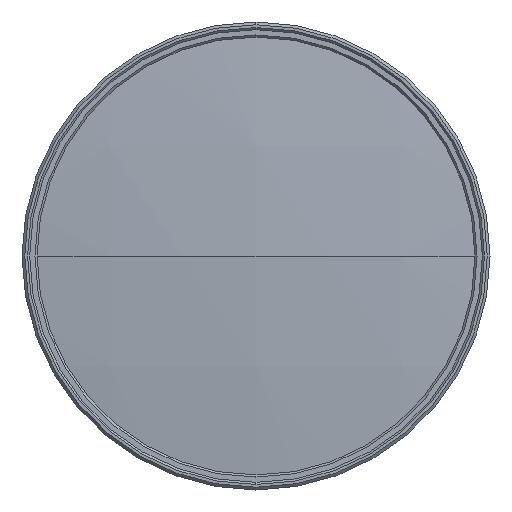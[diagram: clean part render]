
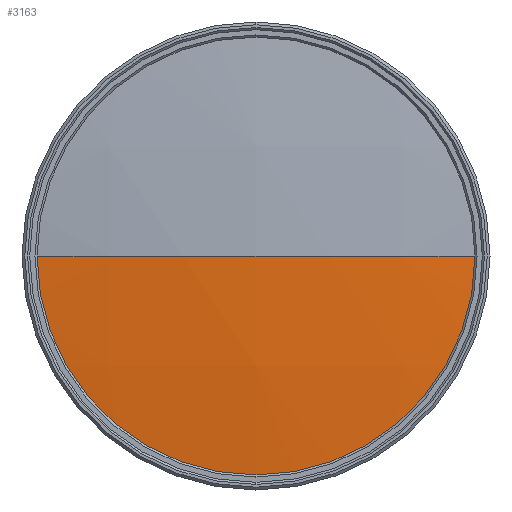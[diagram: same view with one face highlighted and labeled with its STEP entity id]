
A CAD part, left-side view. The second image highlights one B-rep face of the part: STEP entity #3163.
In plain terms, the highlighted spherical face has radius 347.5 mm.
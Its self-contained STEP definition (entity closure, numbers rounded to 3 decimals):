
#76 = ORIENTED_EDGE ( 'NONE', *, *, #3072, .T. ) ;
#130 = CIRCLE ( 'NONE', #3516, 347.5 ) ;
#359 = CARTESIAN_POINT ( 'NONE',  ( 353.729, 0., 0. ) ) ;
#649 = DIRECTION ( 'NONE',  ( 1., 0., 0. ) ) ;
#762 = CARTESIAN_POINT ( 'NONE',  ( 353.729, 0., 0. ) ) ;
#773 = EDGE_LOOP ( 'NONE', ( #76, #1961, #1772 ) ) ;
#922 = VERTEX_POINT ( 'NONE', #1999 ) ;
#1066 = DIRECTION ( 'NONE',  ( 0., 1., 0. ) ) ;
#1074 = AXIS2_PLACEMENT_3D ( 'NONE', #3073, #2483, #1912 ) ;
#1211 = CIRCLE ( 'NONE', #3701, 39.397 ) ;
#1527 = FACE_OUTER_BOUND ( 'NONE', #773, .T. ) ;
#1580 = DIRECTION ( 'NONE',  ( -1., 0., 0. ) ) ;
#1669 = VERTEX_POINT ( 'NONE', #3093 ) ;
#1762 = CARTESIAN_POINT ( 'NONE',  ( 8.469, -39.397, 0. ) ) ;
#1772 = ORIENTED_EDGE ( 'NONE', *, *, #2992, .F. ) ;
#1912 = DIRECTION ( 'NONE',  ( 0., 1., 0. ) ) ;
#1925 = AXIS2_PLACEMENT_3D ( 'NONE', #359, #2411, #649 ) ;
#1961 = ORIENTED_EDGE ( 'NONE', *, *, #2421, .T. ) ;
#1999 = CARTESIAN_POINT ( 'NONE',  ( 6.229, 0., 0. ) ) ;
#2411 = DIRECTION ( 'NONE',  ( 0., 0., 1. ) ) ;
#2421 = EDGE_CURVE ( 'NONE', #3462, #922, #130, .T. ) ;
#2483 = DIRECTION ( 'NONE',  ( 0., 0., -1. ) ) ;
#2803 = DIRECTION ( 'NONE',  ( 0., 0., -1. ) ) ;
#2874 = CIRCLE ( 'NONE', #1925, 347.5 ) ;
#2992 = EDGE_CURVE ( 'NONE', #1669, #922, #2874, .T. ) ;
#3072 = EDGE_CURVE ( 'NONE', #1669, #3462, #1211, .T. ) ;
#3073 = CARTESIAN_POINT ( 'NONE',  ( 353.729, 0., 0. ) ) ;
#3083 = SPHERICAL_SURFACE ( 'NONE', #1074, 347.5 ) ;
#3093 = CARTESIAN_POINT ( 'NONE',  ( 8.469, 39.397, 0. ) ) ;
#3163 = ADVANCED_FACE ( 'NONE', ( #1527 ), #3083, .T. ) ;
#3335 = CARTESIAN_POINT ( 'NONE',  ( 8.469, 0., 0. ) ) ;
#3462 = VERTEX_POINT ( 'NONE', #1762 ) ;
#3516 = AXIS2_PLACEMENT_3D ( 'NONE', #762, #2803, #1066 ) ;
#3632 = DIRECTION ( 'NONE',  ( 0., 0., 1. ) ) ;
#3701 = AXIS2_PLACEMENT_3D ( 'NONE', #3335, #1580, #3632 ) ;
